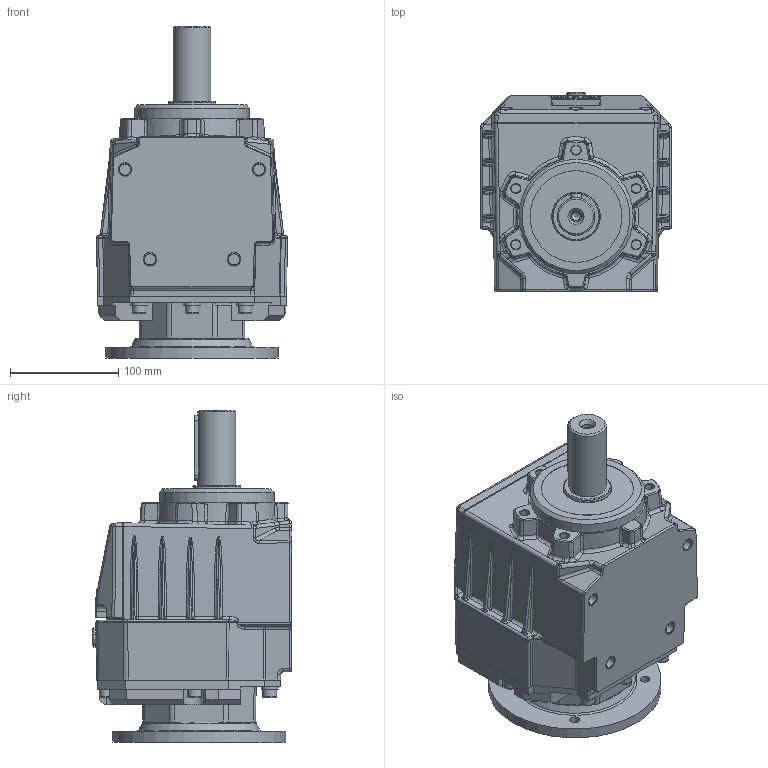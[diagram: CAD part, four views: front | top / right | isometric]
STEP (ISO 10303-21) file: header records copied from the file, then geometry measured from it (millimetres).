
FILE_DESCRIPTION( ( 'Unknown' ), '1' );
FILE_NAME( 'E:/services/configuratordownloads/customers/HYDROMEC/COASSIALI/download/1174F9E3AEDAB01E6707F87EA83F11/STEP/1174F9E3AEDAB01E6707F87EA83F11.3d.stp', 'Unknown', ( 'Unknown' ), ( 'Unknown' ), 'PSStep 10.1', 'Unknown', ' ' );
FILE_SCHEMA( ( 'AUTOMOTIVE_DESIGN { 1 0 10303 214 1 1 1 1 }' ) );
Length unit declared in the file: millimetre
Products named in the file (1): C618800
Bounding box: 176.85 x 185 x 307.4 mm (x, y, z)
Volume: 5108816 mm3; surface area: 271444.8 mm2
Topology: 1 solids, 24 shells, 1185 faces, 2812 edges, 1736 vertices
Faces by surface type: plane 534, cylinder 295, bspline 196, cone 89, torus 37, sphere 22, revolution 8, extrusion 4
Full cylindrical faces by diameter (mm): 4.917 x6, 6 x6, 6.5 x1, 7.175 x6, 8 x1, 8.376 x6, 8.5 x8, 9 x4, 10 x6, 10.106 x4, 10.5 x1, 11.3 x1, 11.445 x2, 12.75 x8, 13.5 x1, 18 x1, 19 x1, 20 x1, 22 x1, 35 x1, 45 x3, 68 x1, 75 x1, 85 x1, 106 x1, 110 x1, 160 x1
Entity records: 53801 total; most frequent: CARTESIAN_POINT 19630, ORIENTED_EDGE 5162, DIRECTION 4516, EDGE_CURVE 2581, VERTEX_POINT 1671, AXIS2_PLACEMENT_3D 1571, EDGE_LOOP 1428, VECTOR 1366
